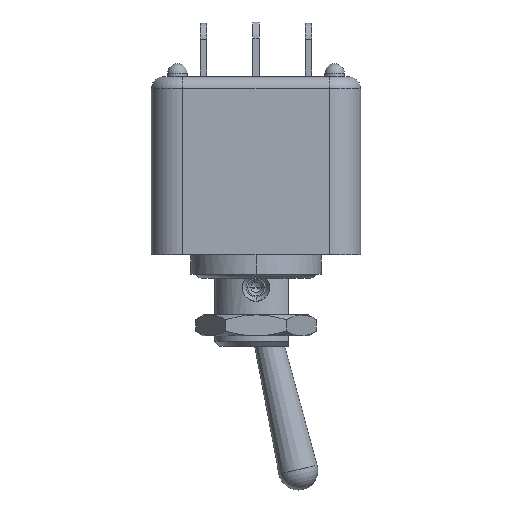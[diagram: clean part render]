
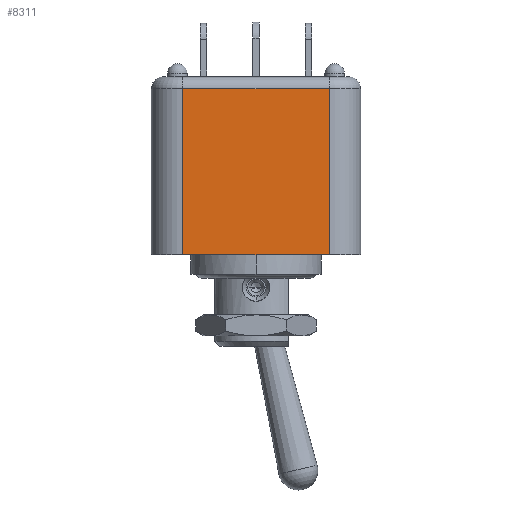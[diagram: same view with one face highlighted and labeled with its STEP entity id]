
A CAD part, top view. The second image highlights one B-rep face of the part: STEP entity #8311.
In plain terms, the highlighted planar face has unit normal (0, 0, 1).
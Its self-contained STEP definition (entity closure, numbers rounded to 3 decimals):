
#1447=DIRECTION('',(1.,0.,0.));
#1448=VECTOR('',#1447,5.6);
#1449=CARTESIAN_POINT('',(0.,-6.2,5.));
#1450=LINE('',#1449,#1448);
#1481=DIRECTION('',(0.,-1.,0.));
#1482=VECTOR('',#1481,12.7);
#1483=CARTESIAN_POINT('',(-5.6,6.5,5.));
#1484=LINE('',#1483,#1482);
#1485=DIRECTION('',(1.,0.,0.));
#1486=VECTOR('',#1485,11.2);
#1487=CARTESIAN_POINT('',(-5.6,6.5,5.));
#1488=LINE('',#1487,#1486);
#1489=DIRECTION('',(0.,-1.,0.));
#1490=VECTOR('',#1489,12.7);
#1491=CARTESIAN_POINT('',(5.6,6.5,5.));
#1492=LINE('',#1491,#1490);
#1511=DIRECTION('',(1.,0.,0.));
#1512=VECTOR('',#1511,5.6);
#1513=CARTESIAN_POINT('',(-5.6,-6.2,5.));
#1514=LINE('',#1513,#1512);
#6676=CARTESIAN_POINT('',(-5.6,-6.2,5.));
#6678=VERTEX_POINT('',#6676);
#6682=CARTESIAN_POINT('',(-5.6,6.5,5.));
#6683=VERTEX_POINT('',#6682);
#6684=CARTESIAN_POINT('',(5.6,6.5,5.));
#6685=VERTEX_POINT('',#6684);
#6691=CARTESIAN_POINT('',(5.6,-6.2,5.));
#6693=VERTEX_POINT('',#6691);
#6837=CARTESIAN_POINT('',(0.,-6.2,5.));
#6839=VERTEX_POINT('',#6837);
#8295=CARTESIAN_POINT('',(-8.,-6.2,5.));
#8296=DIRECTION('',(0.,0.,1.));
#8297=DIRECTION('',(1.,0.,0.));
#8298=AXIS2_PLACEMENT_3D('',#8295,#8296,#8297);
#8299=PLANE('',#8298);
#8301=ORIENTED_EDGE('',*,*,#8300,.F.);
#8303=ORIENTED_EDGE('',*,*,#8302,.F.);
#8305=ORIENTED_EDGE('',*,*,#8304,.T.);
#8307=ORIENTED_EDGE('',*,*,#8306,.T.);
#8308=ORIENTED_EDGE('',*,*,#8271,.F.);
#8309=EDGE_LOOP('',(#8301,#8303,#8305,#8307,#8308));
#8310=FACE_OUTER_BOUND('',#8309,.F.);
#8311=ADVANCED_FACE('',(#8310),#8299,.T.);
#8271=EDGE_CURVE('',#6839,#6693,#1450,.T.);
#8300=EDGE_CURVE('',#6678,#6839,#1514,.T.);
#8302=EDGE_CURVE('',#6683,#6678,#1484,.T.);
#8304=EDGE_CURVE('',#6683,#6685,#1488,.T.);
#8306=EDGE_CURVE('',#6685,#6693,#1492,.T.);
